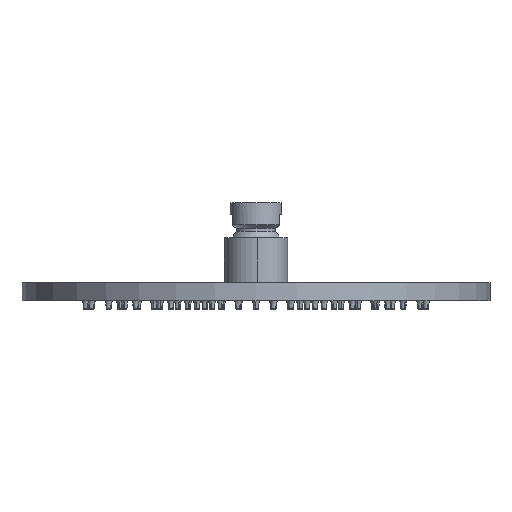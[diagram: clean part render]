
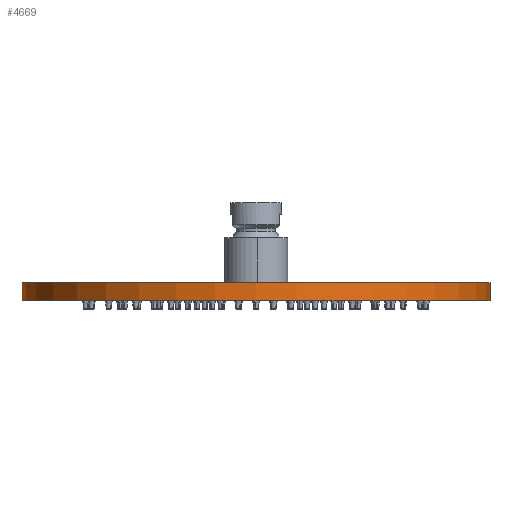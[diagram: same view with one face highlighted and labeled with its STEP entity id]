
A CAD part, front view. The second image highlights one B-rep face of the part: STEP entity #4669.
In plain terms, the highlighted cylindrical face has radius 110 mm (diameter 220 mm), a partial arc.
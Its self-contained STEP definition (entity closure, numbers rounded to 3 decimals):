
#856=CARTESIAN_POINT('',(0.,0.,8.5));
#857=DIRECTION('',(0.,0.,1.));
#858=DIRECTION('',(-1.,0.,0.));
#859=AXIS2_PLACEMENT_3D('',#856,#857,#858);
#871=DIRECTION('',(0.,0.,-1.));
#872=VECTOR('',#871,8.5);
#873=CARTESIAN_POINT('',(110.,0.,8.5));
#874=LINE('',#873,#872);
#875=DIRECTION('',(0.,0.,-1.));
#876=VECTOR('',#875,8.5);
#877=CARTESIAN_POINT('',(-110.,0.,8.5));
#878=LINE('',#877,#876);
#879=CARTESIAN_POINT('',(0.,0.,0.));
#880=DIRECTION('',(0.,0.,-1.));
#881=DIRECTION('',(1.,0.,0.));
#882=AXIS2_PLACEMENT_3D('',#879,#880,#881);
#3673=CARTESIAN_POINT('',(-110.,0.,8.5));
#3674=CARTESIAN_POINT('',(-110.,0.,0.));
#3675=VERTEX_POINT('',#3673);
#3676=VERTEX_POINT('',#3674);
#3677=CARTESIAN_POINT('',(110.,0.,8.5));
#3678=CARTESIAN_POINT('',(110.,0.,0.));
#3679=VERTEX_POINT('',#3677);
#3680=VERTEX_POINT('',#3678);
#4657=CARTESIAN_POINT('',(0.,0.,8.5));
#4658=DIRECTION('',(0.,0.,-1.));
#4659=DIRECTION('',(-1.,0.,0.));
#4660=AXIS2_PLACEMENT_3D('',#4657,#4658,#4659);
#4661=CYLINDRICAL_SURFACE('',#4660,110.);
#4662=ORIENTED_EDGE('',*,*,#4632,.T.);
#4663=ORIENTED_EDGE('',*,*,#4652,.T.);
#4665=ORIENTED_EDGE('',*,*,#4664,.T.);
#4666=ORIENTED_EDGE('',*,*,#4648,.F.);
#4667=EDGE_LOOP('',(#4662,#4663,#4665,#4666));
#4668=FACE_OUTER_BOUND('',#4667,.F.);
#4669=ADVANCED_FACE('',(#4668),#4661,.T.);
#860=CIRCLE('',#859,110.);
#883=CIRCLE('',#882,110.);
#4632=EDGE_CURVE('',#3675,#3679,#860,.T.);
#4648=EDGE_CURVE('',#3675,#3676,#878,.T.);
#4652=EDGE_CURVE('',#3679,#3680,#874,.T.);
#4664=EDGE_CURVE('',#3680,#3676,#883,.T.);
